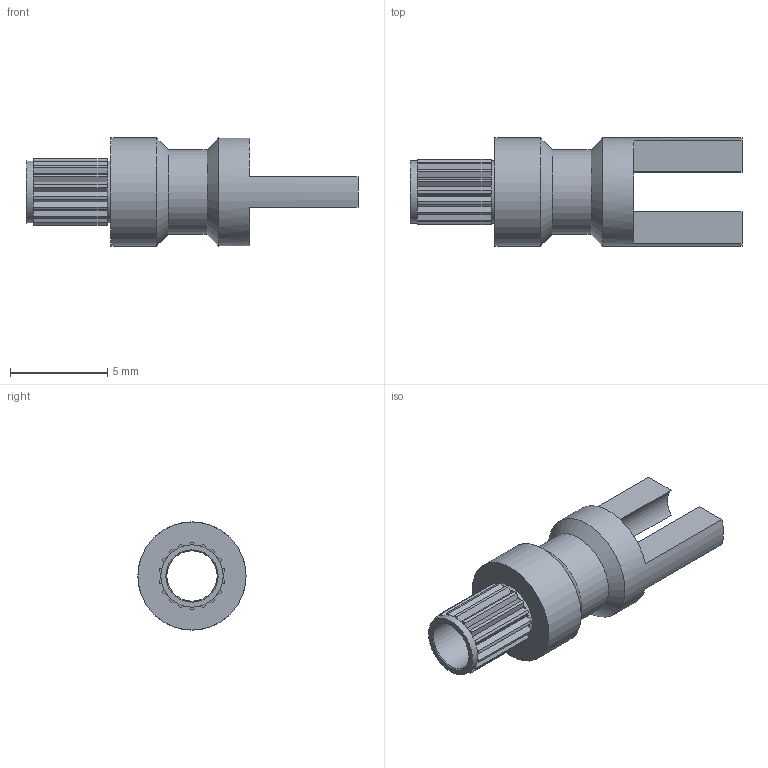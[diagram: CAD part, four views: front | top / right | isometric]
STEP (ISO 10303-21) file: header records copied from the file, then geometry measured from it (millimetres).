
FILE_DESCRIPTION(/* description */ (''),/* implementation_level */ '2;1');
FILE_NAME(/* name */ 'Z:\STEP folder\140-1783-04.ipt.stp',/* time_stamp */ '2016-12-07T10:39:22+00:00',/* author */ ('Paul Karlsons'),/* organization */ (''),/* preprocessor_version */ 'ST-DEVELOPER v15.2',/* originating_system */ 'Autodesk Inventor 2014',/* authorisation */ '');
FILE_SCHEMA (('AUTOMOTIVE_DESIGN { 1 0 10303 214 3 1 1 }'));
Length unit declared in the file: millimetre
Products named in the file (1): 140-1783-04
Bounding box: 17.07 x 5.56 x 5.56 mm (x, y, z)
Volume: 151.1 mm3; surface area: 387.8 mm2
Topology: 1 solids, 1 shells, 145 faces, 388 edges, 245 vertices
Faces by surface type: plane 118, cylinder 24, cone 3
Full cylindrical faces by diameter (mm): 2.59 x1, 3.2 x2, 4.369 x1, 5.56 x2
Entity records: 4443 total; most frequent: DIRECTION 792, CARTESIAN_POINT 762, ORIENTED_EDGE 750, EDGE_CURVE 375, AXIS2_PLACEMENT_3D 271, LINE 250, VECTOR 250, VERTEX_POINT 241
